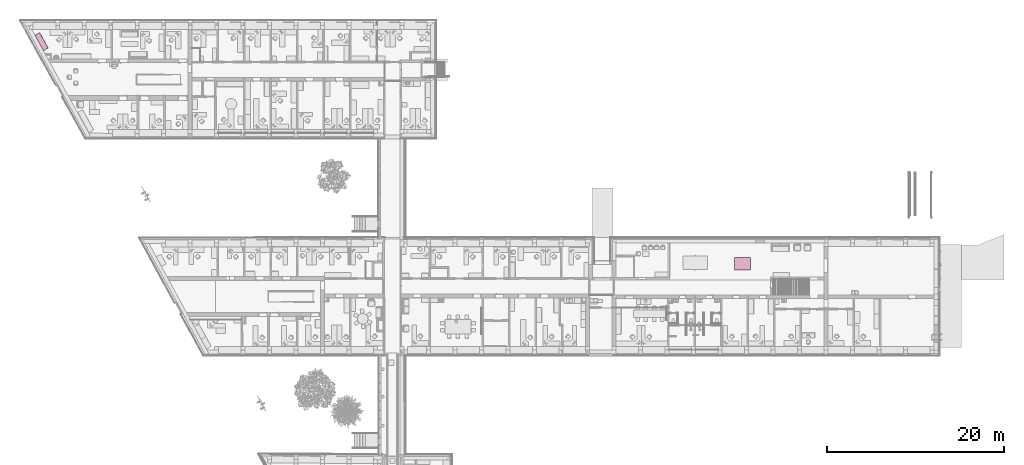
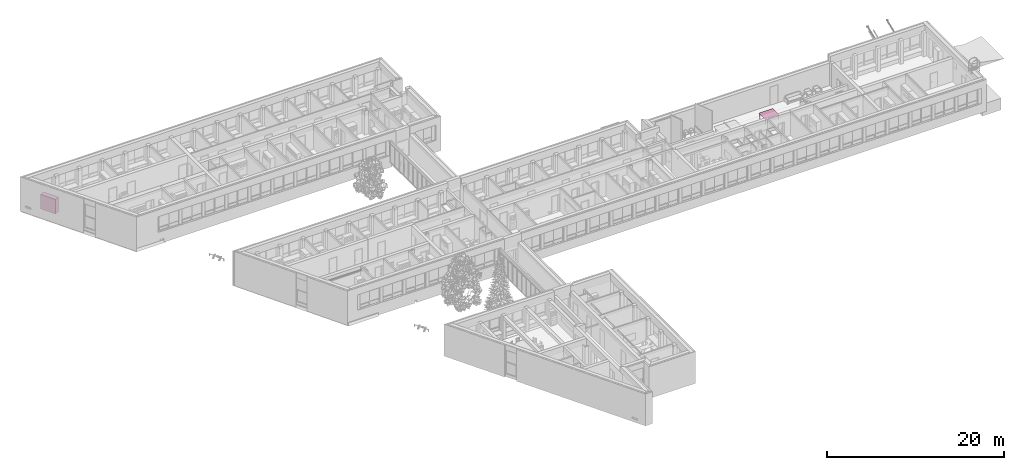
# One storey, part 175 of 194: 2 furnishings.
"""IFC2X3 building model written with IfcOpenShell, lengths in millimetres."""

import ifcopenshell
import ifcopenshell.guid

model = None  # the IFC model being written
_history = None  # IfcOwnerHistory: only IFC2X3 demands one
_inside = {}  # id of a spatial element -> (the spatial element, [elements in it])
_under = {}  # id of a project, library or spatial element -> (it, [spatial elements below it])
_declared = {}  # id of a project -> (the project, [libraries it declares])
_typed = {}  # id of a type object -> (the type object, [elements of that type])
_made_of = {}  # id of a material, layer set ... -> (it, [elements and type objects made of it])


def new_model(schema):
    """Start an empty IFC model of exactly this schema.

    Asked for "IFC4X3", IfcOpenShell would pick the latest addendum, in which some entities
    have other attributes; the version numbers below select the first issue.
    IFC2X3 requires an IfcOwnerHistory on every rooted entity: one is made here for all.
    """
    global model, _history
    if schema == "IFC4X3":
        model = ifcopenshell.file(schema_version=(4, 3, 0, 0))
    else:
        model = ifcopenshell.file(schema=schema)
    _inside.clear()
    _under.clear()
    _declared.clear()
    _typed.clear()
    _made_of.clear()
    _history = None
    if model.schema == "IFC2X3":
        org = make("IfcOrganization", Name="unknown")
        user = make(
            "IfcPersonAndOrganization",
            ThePerson=make("IfcPerson", FamilyName="unknown"),
            TheOrganization=org,
        )
        app = make(
            "IfcApplication",
            ApplicationDeveloper=org,
            Version="unknown",
            ApplicationFullName="unknown",
            ApplicationIdentifier="unknown",
        )
        _history = make(
            "IfcOwnerHistory",
            OwningUser=user,
            OwningApplication=app,
            ChangeAction="ADDED",
            CreationDate=0,
        )
    return model


def make(cls, **values):
    """One entity of the class cls with the attributes given. An attribute that is None is left unset."""
    return model.create_entity(
        cls, **{name: value for name, value in values.items() if value is not None}
    )


def entity(cls, *values):
    """Any entity or typed value of the class cls, its attributes in the order of the schema. None: left unset."""
    e = model.create_entity(cls)
    for i, value in enumerate(values):
        if value is not None:
            e[i] = value
    return e


def rooted(cls, **values):
    """An entity with a GlobalId (a new one), such as an element, a storey or a relation."""
    return make(cls, GlobalId=ifcopenshell.guid.new(), OwnerHistory=_history, **values)


def si_unit(unit_type, name, prefix=None):
    """IfcSIUnit, for example si_unit("LENGTHUNIT", "METRE", prefix="MILLI")."""
    return make("IfcSIUnit", UnitType=unit_type, Prefix=prefix, Name=name)


def converted_unit(unit_type, name, factor, base, dimensions=None, offset=None):
    """IfcConversionBasedUnit, such as the inch: factor (a typed value) times the base unit."""
    return make(
        "IfcConversionBasedUnit"
        if offset is None
        else "IfcConversionBasedUnitWithOffset",
        ConversionOffset=offset,
        Dimensions=None
        if dimensions is None
        else entity("IfcDimensionalExponents", *dimensions),
        UnitType=unit_type,
        Name=name,
        ConversionFactor=make(
            "IfcMeasureWithUnit", ValueComponent=factor, UnitComponent=base
        ),
    )


def derived_unit(unit_type, elements):
    """IfcDerivedUnit: a product of units, each with its exponent."""
    return make(
        "IfcDerivedUnit",
        Elements=[
            make("IfcDerivedUnitElement", Unit=unit, Exponent=power)
            for unit, power in elements
        ],
        UnitType=unit_type,
    )


def money_unit(currency):
    """IfcMonetaryUnit."""
    return make("IfcMonetaryUnit", Currency=currency)


def assignment(units):
    """IfcUnitAssignment: the units of a project."""
    return None if units is None else make("IfcUnitAssignment", Units=units)


def point(xyz):
    """IfcCartesianPoint."""
    return None if xyz is None else make("IfcCartesianPoint", Coordinates=xyz)


def direction(xyz):
    """IfcDirection."""
    return None if xyz is None else make("IfcDirection", DirectionRatios=xyz)


def frame(location, z_axis=None, x_axis=None):
    """IfcAxis2Placement3D, a coordinate frame: its origin and axes. An axis left out is left unset."""
    return make(
        "IfcAxis2Placement3D",
        Location=point(location),
        Axis=direction(z_axis),
        RefDirection=direction(x_axis),
    )


def origin_with_axes():
    """The frame at (0, 0, 0) with the z axis (0, 0, 1) and the x axis (1, 0, 0) written out."""
    return frame((0.0, 0.0, 0.0), z_axis=(0.0, 0.0, 1.0), x_axis=(1.0, 0.0, 0.0))


def place(relative_to, where):
    """IfcLocalPlacement: puts the frame where relative to a parent placement (None: the world)."""
    return make(
        "IfcLocalPlacement", PlacementRelTo=relative_to, RelativePlacement=where
    )


def context(
    kind, dimensions, precision=None, world=None, true_north=None, identifier=None
):
    """IfcGeometricRepresentationContext, for example the 3D "Model" context."""
    return make(
        "IfcGeometricRepresentationContext",
        ContextIdentifier=identifier,
        ContextType=kind,
        CoordinateSpaceDimension=dimensions,
        Precision=precision,
        WorldCoordinateSystem=world,
        TrueNorth=true_north,
    )


def subcontext(parent, identifier, kind, view, scale=None):
    """IfcGeometricRepresentationSubContext, for example "Body" below "Model"."""
    return make(
        "IfcGeometricRepresentationSubContext",
        ContextIdentifier=identifier,
        ContextType=kind,
        ParentContext=parent,
        TargetScale=scale,
        TargetView=view,
    )


def project(units=None, contexts=None):
    """IfcProject with its units and contexts."""
    return rooted(
        "IfcProject",
        Name="project",
        RepresentationContexts=contexts,
        UnitsInContext=assignment(units),
    )


def spatial(cls, under=None, at=None, **own):
    """A site, building, storey or space (cls), placed at a placement, below another one or the project."""
    s = rooted(cls, ObjectPlacement=at, **own)
    if under is not None:
        _under.setdefault(under.id(), (under, []))[1].append(s)
    return s


def faces_of(points, faces, orient=None, outer=None):
    """IfcFace entities. A face is a list of loops; a loop is a list of indices into points, from 0.

    orient and outer hold one flag for each loop. By default every Orientation is true, the
    first loop of a face is its IfcFaceOuterBound and the others are IfcFaceBound.
    """
    made = []
    for i, loops in enumerate(faces):
        bounds = []
        for j, loop in enumerate(loops):
            is_outer = j == 0 if outer is None else outer[i][j]
            bounds.append(
                make(
                    "IfcFaceOuterBound" if is_outer else "IfcFaceBound",
                    Bound=make("IfcPolyLoop", Polygon=[points[k] for k in loop]),
                    Orientation=True if orient is None else orient[i][j],
                )
            )
        made.append(make("IfcFace", Bounds=bounds))
    return made


def faceted_brep(points, faces, orient=None, outer=None, voids=None):
    """IfcFacetedBrep: a solid bounded by flat faces; with voids (closed shells), ...WithVoids."""
    shared = [point(p) for p in points]
    hull = make("IfcClosedShell", CfsFaces=faces_of(shared, faces, orient, outer))
    if voids is None:
        return make("IfcFacetedBrep", Outer=hull)
    return make(
        "IfcFacetedBrepWithVoids",
        Outer=hull,
        Voids=[
            make(cls, CfsFaces=faces_of(shared, fs, o, b)) for cls, fs, o, b in voids
        ],
    )


def shape(context_of_items, identifier, shape_type, items):
    """IfcShapeRepresentation: the items that make up one representation, for example the "Body"."""
    return make(
        "IfcShapeRepresentation",
        ContextOfItems=context_of_items,
        RepresentationIdentifier=identifier,
        RepresentationType=shape_type,
        Items=items,
    )


def made_of(thing, what):
    """Note that an element or type object is made of a material, layer set ...; save() writes the relation."""
    if what is not None:
        _made_of.setdefault(what.id(), (what, []))[1].append(thing)
    return thing


def type_object(cls, material=None, **own):
    """A type object (cls), such as IfcWallType, which elements share."""
    return made_of(rooted(cls, **own), material)


def element(
    cls,
    number,
    at=None,
    inside=None,
    cuts=None,
    type_object=None,
    material=None,
    context=None,
    identifier="Body",
    shape_type=None,
    held_by="IfcProductDefinitionShape",
    body=None,
    shapes=None,
    **own,
):
    """One element of the class cls, such as IfcWall. Its Tag is "e" and its number.

    at: its placement. inside: the storey or other place that contains it. cuts: it is an
    opening in that element (IfcRelVoidsElement). A single representation is given by context,
    identifier, shape_type and body (its items); several are given by shapes. held_by: the class
    of the entity that holds the representations. save() writes the other relations.
    """
    e = rooted(cls, Tag="e%d" % number, ObjectPlacement=at, **own)
    if body is not None:
        shapes = [shape(context, identifier, shape_type, body)]
    if shapes is not None:
        e.Representation = make(held_by, Representations=shapes)
    if inside is not None:
        _inside.setdefault(inside.id(), (inside, []))[1].append(e)
    if cuts is not None:
        rooted(
            "IfcRelVoidsElement", RelatingBuildingElement=cuts, RelatedOpeningElement=e
        )
    if type_object is not None:
        _typed.setdefault(type_object.id(), (type_object, []))[1].append(e)
    return made_of(e, material)


def aggregate(whole, parts):
    """IfcRelAggregates: a whole, such as a stair, and the parts it consists of."""
    return rooted("IfcRelAggregates", RelatingObject=whole, RelatedObjects=parts)


def save(model, path):
    """Write the relations noted so far, then the file.

    IfcRelAggregates (storeys below a building ...), IfcRelContainedInSpatialStructure (elements
    in a storey), IfcRelDefinesByType, IfcRelAssociatesMaterial and IfcRelDeclares: one each for
    every whole, place, type object, material and project.
    """
    for whole, parts in _under.values():
        aggregate(whole, parts)
    for where, things in _inside.values():
        rooted(
            "IfcRelContainedInSpatialStructure",
            RelatedElements=things,
            RelatingStructure=where,
        )
    for kind, things in _typed.values():
        rooted("IfcRelDefinesByType", RelatedObjects=things, RelatingType=kind)
    for what, things in _made_of.values():
        rooted("IfcRelAssociatesMaterial", RelatedObjects=things, RelatingMaterial=what)
    for by, libraries in _declared.values():
        rooted("IfcRelDeclares", RelatingContext=by, RelatedDefinitions=libraries)
    model.write(path)


model = new_model("IFC2X3")

# Units and contexts
model_context = context("Model", 3, precision=1e-05, world=origin_with_axes(), true_north=direction((0.0, 1.0)))
body_context = subcontext(model_context, "Body", "Model", "MODEL_VIEW")
ifc_project = project(units=[si_unit("LENGTHUNIT", "METRE", prefix="MILLI"), si_unit("AREAUNIT", "SQUARE_METRE"), si_unit("VOLUMEUNIT", "CUBIC_METRE"), converted_unit("PLANEANGLEUNIT", "DEGREE", entity("IfcPlaneAngleMeasure", 0.0174532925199), si_unit("PLANEANGLEUNIT", "RADIAN"), dimensions=[0, 0, 0, 0, 0, 0, 0]), si_unit("SOLIDANGLEUNIT", "STERADIAN"), money_unit("EUR"), converted_unit("TIMEUNIT", "Year", entity("IfcTimeMeasure", 31556926.0), si_unit("TIMEUNIT", "SECOND"), dimensions=[0, 0, 1, 0, 0, 0, 0]), si_unit("MASSUNIT", "GRAM", prefix="KILO"), si_unit("THERMODYNAMICTEMPERATUREUNIT", "DEGREE_CELSIUS"), si_unit("LUMINOUSINTENSITYUNIT", "LUMEN"), si_unit("ENERGYUNIT", "JOULE", prefix="MEGA"), derived_unit("THERMALCONDUCTANCEUNIT", [(si_unit("POWERUNIT", "WATT"), 1), (si_unit("LENGTHUNIT", "METRE"), -1), (si_unit("THERMODYNAMICTEMPERATUREUNIT", "KELVIN"), -1)]), derived_unit("SPECIFICHEATCAPACITYUNIT", [(si_unit("ENERGYUNIT", "JOULE"), 1), (si_unit("MASSUNIT", "GRAM", prefix="KILO"), -1), (si_unit("THERMODYNAMICTEMPERATUREUNIT", "KELVIN"), -1)]), derived_unit("MASSDENSITYUNIT", [(si_unit("MASSUNIT", "GRAM", prefix="KILO"), 1), (si_unit("VOLUMEUNIT", "CUBIC_METRE"), -1)])], contexts=[model_context])

# Site, building, storey
site_placement = place(None, origin_with_axes())
site = spatial("IfcSite", under=ifc_project, at=site_placement, Name="Site", CompositionType="ELEMENT")
building_placement = place(site_placement, origin_with_axes())
building = spatial("IfcBuilding", under=site, at=building_placement, Name="Building", CompositionType="ELEMENT")
storey_placement = place(building_placement, frame((0.0, 0.0, 3000.0), z_axis=(0.0, 0.0, 1.0), x_axis=(1.0, 0.0, 0.0)))
storey = spatial("IfcBuildingStorey", under=building, at=storey_placement, Name="2 KORRUS", CompositionType="ELEMENT", Elevation=3000.0)

# Furnishings
furnishing_element_type_1 = type_object("IfcFurnishingElementType", Name="Model Element 136")
furnishing_1_placement = place(storey_placement, frame((77560.0432985, 45241.6882538, 0.0), z_axis=(0.0, 0.0, 1.0), x_axis=(0.0, -1.0, 0.0)))
element("IfcFurnishingElement", 1, at=furnishing_1_placement, inside=storey, type_object=furnishing_element_type_1, Name="FU - 007", context=body_context, shape_type="Brep", body=[
    faceted_brep([(0.0, 0.0, 725.0), (1400.0, 0.0, 725.0), (1400.0, 0.0, 750.0), (0.0, 0.0, 750.0), (0.0, 1839.94990248, 725.0), (1400.0, 1839.94990248, 725.0), (1400.0, 1839.94990248, 750.0), (0.0, 1839.94990248, 750.0)], [[[0, 1, 2, 3]], [[0, 4, 5, 1]], [[1, 5, 6, 2]], [[3, 2, 6, 7]], [[4, 0, 3, 7]], [[5, 4, 7, 6]]]),
    faceted_brep([(77.6776695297, 77.6776695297, 10.0), (85.0, 60.0, 10.0), (77.6776695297, 42.3223304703, 10.0), (60.0, 35.0, 10.0), (42.3223304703, 42.3223304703, 10.0), (35.0, 60.0, 10.0), (42.3223304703, 77.6776695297, 10.0), (60.0, 85.0, 10.0), (77.6776695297, 77.6776695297, 725.0), (85.0, 60.0, 725.0), (77.6776695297, 42.3223304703, 725.0), (60.0, 35.0, 725.0), (42.3223304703, 42.3223304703, 725.0), (35.0, 60.0, 725.0), (42.3223304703, 77.6776695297, 725.0), (60.0, 85.0, 725.0)], [[[0, 1, 2, 3, 4, 5, 6, 7]], [[1, 0, 8, 9]], [[2, 1, 9, 10]], [[3, 2, 10, 11]], [[4, 3, 11, 12]], [[5, 4, 12, 13]], [[6, 5, 13, 14]], [[7, 6, 14, 15]], [[0, 7, 15, 8]], [[8, 15, 14, 13, 12, 11, 10, 9]]]),
    faceted_brep([(81.2132034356, 81.2132034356, 0.0), (90.0, 60.0, 0.0), (81.2132034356, 38.7867965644, 0.0), (60.0, 30.0, 0.0), (38.7867965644, 38.7867965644, 0.0), (30.0, 60.0, 0.0), (38.7867965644, 81.2132034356, 0.0), (60.0, 90.0, 0.0), (81.2132034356, 81.2132034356, 10.0), (90.0, 60.0, 10.0), (81.2132034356, 38.7867965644, 10.0), (60.0, 30.0, 10.0), (38.7867965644, 38.7867965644, 10.0), (30.0, 60.0, 10.0), (38.7867965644, 81.2132034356, 10.0), (60.0, 90.0, 10.0)], [[[0, 1, 2, 3, 4, 5, 6, 7]], [[1, 0, 8, 9]], [[2, 1, 9, 10]], [[3, 2, 10, 11]], [[4, 3, 11, 12]], [[5, 4, 12, 13]], [[6, 5, 13, 14]], [[7, 6, 14, 15]], [[0, 7, 15, 8]], [[8, 15, 14, 13, 12, 11, 10, 9]]]),
    faceted_brep([(77.6776695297, 1797.62757201, 10.0), (85.0, 1779.94990248, 10.0), (77.6776695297, 1762.27223295, 10.0), (60.0, 1754.94990248, 10.0), (42.3223304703, 1762.27223295, 10.0), (35.0, 1779.94990248, 10.0), (42.3223304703, 1797.62757201, 10.0), (60.0, 1804.94990248, 10.0), (77.6776695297, 1797.62757201, 725.0), (85.0, 1779.94990248, 725.0), (77.6776695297, 1762.27223295, 725.0), (60.0, 1754.94990248, 725.0), (42.3223304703, 1762.27223295, 725.0), (35.0, 1779.94990248, 725.0), (42.3223304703, 1797.62757201, 725.0), (60.0, 1804.94990248, 725.0)], [[[0, 1, 2, 3, 4, 5, 6, 7]], [[1, 0, 8, 9]], [[2, 1, 9, 10]], [[3, 2, 10, 11]], [[4, 3, 11, 12]], [[5, 4, 12, 13]], [[6, 5, 13, 14]], [[7, 6, 14, 15]], [[0, 7, 15, 8]], [[8, 15, 14, 13, 12, 11, 10, 9]]]),
    faceted_brep([(81.2132034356, 1801.16310592, 0.0), (90.0, 1779.94990248, 0.0), (81.2132034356, 1758.73669905, 0.0), (60.0, 1749.94990248, 0.0), (38.7867965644, 1758.73669905, 0.0), (30.0, 1779.94990248, 0.0), (38.7867965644, 1801.16310592, 0.0), (60.0, 1809.94990248, 0.0), (81.2132034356, 1801.16310592, 10.0), (90.0, 1779.94990248, 10.0), (81.2132034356, 1758.73669905, 10.0), (60.0, 1749.94990248, 10.0), (38.7867965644, 1758.73669905, 10.0), (30.0, 1779.94990248, 10.0), (38.7867965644, 1801.16310592, 10.0), (60.0, 1809.94990248, 10.0)], [[[0, 1, 2, 3, 4, 5, 6, 7]], [[1, 0, 8, 9]], [[2, 1, 9, 10]], [[3, 2, 10, 11]], [[4, 3, 11, 12]], [[5, 4, 12, 13]], [[6, 5, 13, 14]], [[7, 6, 14, 15]], [[0, 7, 15, 8]], [[8, 15, 14, 13, 12, 11, 10, 9]]]),
    faceted_brep([(1357.67766953, 77.6776695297, 10.0), (1365.0, 60.0, 10.0), (1357.67766953, 42.3223304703, 10.0), (1340.0, 35.0, 10.0), (1322.32233047, 42.3223304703, 10.0), (1315.0, 60.0, 10.0), (1322.32233047, 77.6776695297, 10.0), (1340.0, 85.0, 10.0), (1357.67766953, 77.6776695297, 725.0), (1365.0, 60.0, 725.0), (1357.67766953, 42.3223304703, 725.0), (1340.0, 35.0, 725.0), (1322.32233047, 42.3223304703, 725.0), (1315.0, 60.0, 725.0), (1322.32233047, 77.6776695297, 725.0), (1340.0, 85.0, 725.0)], [[[0, 1, 2, 3, 4, 5, 6, 7]], [[1, 0, 8, 9]], [[2, 1, 9, 10]], [[3, 2, 10, 11]], [[4, 3, 11, 12]], [[5, 4, 12, 13]], [[6, 5, 13, 14]], [[7, 6, 14, 15]], [[0, 7, 15, 8]], [[8, 15, 14, 13, 12, 11, 10, 9]]]),
    faceted_brep([(1361.21320344, 81.2132034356, 0.0), (1370.0, 60.0, 0.0), (1361.21320344, 38.7867965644, 0.0), (1340.0, 30.0, 0.0), (1318.78679656, 38.7867965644, 0.0), (1310.0, 60.0, 0.0), (1318.78679656, 81.2132034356, 0.0), (1340.0, 90.0, 0.0), (1361.21320344, 81.2132034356, 10.0), (1370.0, 60.0, 10.0), (1361.21320344, 38.7867965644, 10.0), (1340.0, 30.0, 10.0), (1318.78679656, 38.7867965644, 10.0), (1310.0, 60.0, 10.0), (1318.78679656, 81.2132034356, 10.0), (1340.0, 90.0, 10.0)], [[[0, 1, 2, 3, 4, 5, 6, 7]], [[1, 0, 8, 9]], [[2, 1, 9, 10]], [[3, 2, 10, 11]], [[4, 3, 11, 12]], [[5, 4, 12, 13]], [[6, 5, 13, 14]], [[7, 6, 14, 15]], [[0, 7, 15, 8]], [[8, 15, 14, 13, 12, 11, 10, 9]]]),
    faceted_brep([(1357.67766953, 1797.62757201, 10.0), (1365.0, 1779.94990248, 10.0), (1357.67766953, 1762.27223295, 10.0), (1340.0, 1754.94990248, 10.0), (1322.32233047, 1762.27223295, 10.0), (1315.0, 1779.94990248, 10.0), (1322.32233047, 1797.62757201, 10.0), (1340.0, 1804.94990248, 10.0), (1357.67766953, 1797.62757201, 725.0), (1365.0, 1779.94990248, 725.0), (1357.67766953, 1762.27223295, 725.0), (1340.0, 1754.94990248, 725.0), (1322.32233047, 1762.27223295, 725.0), (1315.0, 1779.94990248, 725.0), (1322.32233047, 1797.62757201, 725.0), (1340.0, 1804.94990248, 725.0)], [[[0, 1, 2, 3, 4, 5, 6, 7]], [[1, 0, 8, 9]], [[2, 1, 9, 10]], [[3, 2, 10, 11]], [[4, 3, 11, 12]], [[5, 4, 12, 13]], [[6, 5, 13, 14]], [[7, 6, 14, 15]], [[0, 7, 15, 8]], [[8, 15, 14, 13, 12, 11, 10, 9]]]),
    faceted_brep([(1361.21320344, 1801.16310592, 0.0), (1370.0, 1779.94990248, 0.0), (1361.21320344, 1758.73669905, 0.0), (1340.0, 1749.94990248, 0.0), (1318.78679656, 1758.73669905, 0.0), (1310.0, 1779.94990248, 0.0), (1318.78679656, 1801.16310592, 0.0), (1340.0, 1809.94990248, 0.0), (1361.21320344, 1801.16310592, 10.0), (1370.0, 1779.94990248, 10.0), (1361.21320344, 1758.73669905, 10.0), (1340.0, 1749.94990248, 10.0), (1318.78679656, 1758.73669905, 10.0), (1310.0, 1779.94990248, 10.0), (1318.78679656, 1801.16310592, 10.0), (1340.0, 1809.94990248, 10.0)], [[[0, 1, 2, 3, 4, 5, 6, 7]], [[1, 0, 8, 9]], [[2, 1, 9, 10]], [[3, 2, 10, 11]], [[4, 3, 11, 12]], [[5, 4, 12, 13]], [[6, 5, 13, 14]], [[7, 6, 14, 15]], [[0, 7, 15, 8]], [[8, 15, 14, 13, 12, 11, 10, 9]]]),
])
furnishing_element_type_2 = type_object("IfcFurnishingElementType", Name="Model Element 97")
furnishing_2_placement = place(storey_placement, frame((-108.204013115, 68960.312583, 0.0), z_axis=(0.0, 0.0, 1.0), x_axis=(-0.477572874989, 0.878592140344, 0.0)))
element("IfcFurnishingElement", 2, at=furnishing_2_placement, inside=storey, type_object=furnishing_element_type_2, Name="FU - 001", context=body_context, shape_type="Brep", body=[
    faceted_brep([(2000.0, 19.0, 0.0), (0.0, 19.0, 0.0), (0.0, 622.313284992, 0.0), (2000.0, 622.313284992, 0.0), (2000.0, 19.0, 100.0), (0.0, 19.0, 100.0), (0.0, 622.313284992, 100.0), (2000.0, 622.313284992, 100.0)], [[[0, 1, 2, 3]], [[1, 0, 4, 5]], [[2, 1, 5, 6]], [[3, 2, 6, 7]], [[0, 3, 7, 4]], [[5, 4, 7, 6]]]),
    faceted_brep([(19.0, 622.313284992, 119.0), (19.0, 603.313284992, 119.0), (19.0, 603.313284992, 1981.0), (19.0, 622.313284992, 1981.0), (1981.0, 622.313284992, 119.0), (1981.0, 603.313284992, 119.0), (1981.0, 603.313284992, 1981.0), (1981.0, 622.313284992, 1981.0)], [[[0, 1, 2, 3]], [[0, 4, 5, 1]], [[1, 5, 6, 2]], [[3, 2, 6, 7]], [[4, 0, 3, 7]], [[5, 4, 7, 6]]]),
    faceted_brep([(2000.0, 19.0, 100.0), (1981.0, 19.0, 100.0), (1981.0, 622.313284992, 100.0), (2000.0, 622.313284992, 100.0), (2000.0, 19.0, 2000.0), (1981.0, 19.0, 2000.0), (1981.0, 622.313284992, 2000.0), (2000.0, 622.313284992, 2000.0)], [[[0, 1, 2, 3]], [[1, 0, 4, 5]], [[2, 1, 5, 6]], [[3, 2, 6, 7]], [[0, 3, 7, 4]], [[5, 4, 7, 6]]]),
    faceted_brep([(19.0, 19.0, 100.0), (0.0, 19.0, 100.0), (0.0, 622.313284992, 100.0), (19.0, 622.313284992, 100.0), (19.0, 19.0, 2000.0), (0.0, 19.0, 2000.0), (0.0, 622.313284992, 2000.0), (19.0, 622.313284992, 2000.0)], [[[0, 1, 2, 3]], [[1, 0, 4, 5]], [[2, 1, 5, 6]], [[3, 2, 6, 7]], [[0, 3, 7, 4]], [[5, 4, 7, 6]]]),
    faceted_brep([(1981.0, 19.0, 100.0), (19.0, 19.0, 100.0), (19.0, 622.313284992, 100.0), (1981.0, 622.313284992, 100.0), (1981.0, 19.0, 119.0), (19.0, 19.0, 119.0), (19.0, 622.313284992, 119.0), (1981.0, 622.313284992, 119.0)], [[[0, 1, 2, 3]], [[1, 0, 4, 5]], [[2, 1, 5, 6]], [[3, 2, 6, 7]], [[0, 3, 7, 4]], [[5, 4, 7, 6]]]),
    faceted_brep([(1981.0, 19.0, 1981.0), (19.0, 19.0, 1981.0), (19.0, 622.313284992, 1981.0), (1981.0, 622.313284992, 1981.0), (1981.0, 19.0, 2000.0), (19.0, 19.0, 2000.0), (19.0, 622.313284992, 2000.0), (1981.0, 622.313284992, 2000.0)], [[[0, 1, 2, 3]], [[1, 0, 4, 5]], [[2, 1, 5, 6]], [[3, 2, 6, 7]], [[0, 3, 7, 4]], [[5, 4, 7, 6]]]),
    faceted_brep([(5.0, 19.0, 105.0), (1995.0, 19.0, 105.0), (1995.0, 0.0, 105.0), (5.0, 0.0, 105.0), (5.0, 19.0, 395.0), (1995.0, 19.0, 395.0), (1995.0, 0.0, 395.0), (5.0, 0.0, 395.0)], [[[0, 1, 2, 3]], [[0, 4, 5, 1]], [[1, 5, 6, 2]], [[3, 2, 6, 7]], [[4, 0, 3, 7]], [[5, 4, 7, 6]]]),
    faceted_brep([(1010.39230485, 0.0, 244.0), (1006.0, 0.0, 239.607695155), (1000.0, 0.0, 238.0), (994.0, 0.0, 239.607695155), (989.607695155, 0.0, 244.0), (988.0, 0.0, 250.0), (989.607695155, 0.0, 256.0), (994.0, 0.0, 260.392304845), (1000.0, 0.0, 262.0), (1006.0, 0.0, 260.392304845), (1010.39230485, 0.0, 256.0), (1012.0, 0.0, 250.0), (1010.39230485, -25.0, 244.0), (1006.0, -25.0, 239.607695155), (1000.0, -25.0, 238.0), (994.0, -25.0, 239.607695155), (989.607695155, -25.0, 244.0), (988.0, -25.0, 250.0), (989.607695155, -25.0, 256.0), (994.0, -25.0, 260.392304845), (1000.0, -25.0, 262.0), (1006.0, -25.0, 260.392304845), (1010.39230485, -25.0, 256.0), (1012.0, -25.0, 250.0)], [[[0, 1, 2, 3, 4, 5, 6, 7, 8, 9, 10, 11]], [[1, 0, 12, 13]], [[2, 1, 13, 14]], [[3, 2, 14, 15]], [[4, 3, 15, 16]], [[5, 4, 16, 17]], [[6, 5, 17, 18]], [[7, 6, 18, 19]], [[8, 7, 19, 20]], [[9, 8, 20, 21]], [[10, 9, 21, 22]], [[11, 10, 22, 23]], [[0, 11, 23, 12]], [[12, 23, 22, 21, 20, 19, 18, 17, 16, 15, 14, 13]]]),
    faceted_brep([(5.0, 19.0, 405.0), (1995.0, 19.0, 405.0), (1995.0, 0.0, 405.0), (5.0, 0.0, 405.0), (5.0, 19.0, 695.0), (1995.0, 19.0, 695.0), (1995.0, 0.0, 695.0), (5.0, 0.0, 695.0)], [[[0, 1, 2, 3]], [[0, 4, 5, 1]], [[1, 5, 6, 2]], [[3, 2, 6, 7]], [[4, 0, 3, 7]], [[5, 4, 7, 6]]]),
    faceted_brep([(1010.39230485, 0.0, 544.0), (1006.0, 0.0, 539.607695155), (1000.0, 0.0, 538.0), (994.0, 0.0, 539.607695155), (989.607695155, 0.0, 544.0), (988.0, 0.0, 550.0), (989.607695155, 0.0, 556.0), (994.0, 0.0, 560.392304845), (1000.0, 0.0, 562.0), (1006.0, 0.0, 560.392304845), (1010.39230485, 0.0, 556.0), (1012.0, 0.0, 550.0), (1010.39230485, -25.0, 544.0), (1006.0, -25.0, 539.607695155), (1000.0, -25.0, 538.0), (994.0, -25.0, 539.607695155), (989.607695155, -25.0, 544.0), (988.0, -25.0, 550.0), (989.607695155, -25.0, 556.0), (994.0, -25.0, 560.392304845), (1000.0, -25.0, 562.0), (1006.0, -25.0, 560.392304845), (1010.39230485, -25.0, 556.0), (1012.0, -25.0, 550.0)], [[[0, 1, 2, 3, 4, 5, 6, 7, 8, 9, 10, 11]], [[1, 0, 12, 13]], [[2, 1, 13, 14]], [[3, 2, 14, 15]], [[4, 3, 15, 16]], [[5, 4, 16, 17]], [[6, 5, 17, 18]], [[7, 6, 18, 19]], [[8, 7, 19, 20]], [[9, 8, 20, 21]], [[10, 9, 21, 22]], [[11, 10, 22, 23]], [[0, 11, 23, 12]], [[12, 23, 22, 21, 20, 19, 18, 17, 16, 15, 14, 13]]]),
    faceted_brep([(5.0, 19.0, 705.0), (1995.0, 19.0, 705.0), (1995.0, 0.0, 705.0), (5.0, 0.0, 705.0), (5.0, 19.0, 995.0), (1995.0, 19.0, 995.0), (1995.0, 0.0, 995.0), (5.0, 0.0, 995.0)], [[[0, 1, 2, 3]], [[0, 4, 5, 1]], [[1, 5, 6, 2]], [[3, 2, 6, 7]], [[4, 0, 3, 7]], [[5, 4, 7, 6]]]),
    faceted_brep([(1010.39230485, 0.0, 844.0), (1006.0, 0.0, 839.607695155), (1000.0, 0.0, 838.0), (994.0, 0.0, 839.607695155), (989.607695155, 0.0, 844.0), (988.0, 0.0, 850.0), (989.607695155, 0.0, 856.0), (994.0, 0.0, 860.392304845), (1000.0, 0.0, 862.0), (1006.0, 0.0, 860.392304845), (1010.39230485, 0.0, 856.0), (1012.0, 0.0, 850.0), (1010.39230485, -25.0, 844.0), (1006.0, -25.0, 839.607695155), (1000.0, -25.0, 838.0), (994.0, -25.0, 839.607695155), (989.607695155, -25.0, 844.0), (988.0, -25.0, 850.0), (989.607695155, -25.0, 856.0), (994.0, -25.0, 860.392304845), (1000.0, -25.0, 862.0), (1006.0, -25.0, 860.392304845), (1010.39230485, -25.0, 856.0), (1012.0, -25.0, 850.0)], [[[0, 1, 2, 3, 4, 5, 6, 7, 8, 9, 10, 11]], [[1, 0, 12, 13]], [[2, 1, 13, 14]], [[3, 2, 14, 15]], [[4, 3, 15, 16]], [[5, 4, 16, 17]], [[6, 5, 17, 18]], [[7, 6, 18, 19]], [[8, 7, 19, 20]], [[9, 8, 20, 21]], [[10, 9, 21, 22]], [[11, 10, 22, 23]], [[0, 11, 23, 12]], [[12, 23, 22, 21, 20, 19, 18, 17, 16, 15, 14, 13]]]),
    faceted_brep([(5.0, 19.0, 1005.0), (1995.0, 19.0, 1005.0), (1995.0, 0.0, 1005.0), (5.0, 0.0, 1005.0), (5.0, 19.0, 1295.0), (1995.0, 19.0, 1295.0), (1995.0, 0.0, 1295.0), (5.0, 0.0, 1295.0)], [[[0, 1, 2, 3]], [[0, 4, 5, 1]], [[1, 5, 6, 2]], [[3, 2, 6, 7]], [[4, 0, 3, 7]], [[5, 4, 7, 6]]]),
    faceted_brep([(1010.39230485, 0.0, 1144.0), (1006.0, 0.0, 1139.60769515), (1000.0, 0.0, 1138.0), (994.0, 0.0, 1139.60769515), (989.607695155, 0.0, 1144.0), (988.0, 0.0, 1150.0), (989.607695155, 0.0, 1156.0), (994.0, 0.0, 1160.39230485), (1000.0, 0.0, 1162.0), (1006.0, 0.0, 1160.39230485), (1010.39230485, 0.0, 1156.0), (1012.0, 0.0, 1150.0), (1010.39230485, -25.0, 1144.0), (1006.0, -25.0, 1139.60769515), (1000.0, -25.0, 1138.0), (994.0, -25.0, 1139.60769515), (989.607695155, -25.0, 1144.0), (988.0, -25.0, 1150.0), (989.607695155, -25.0, 1156.0), (994.0, -25.0, 1160.39230485), (1000.0, -25.0, 1162.0), (1006.0, -25.0, 1160.39230485), (1010.39230485, -25.0, 1156.0), (1012.0, -25.0, 1150.0)], [[[0, 1, 2, 3, 4, 5, 6, 7, 8, 9, 10, 11]], [[1, 0, 12, 13]], [[2, 1, 13, 14]], [[3, 2, 14, 15]], [[4, 3, 15, 16]], [[5, 4, 16, 17]], [[6, 5, 17, 18]], [[7, 6, 18, 19]], [[8, 7, 19, 20]], [[9, 8, 20, 21]], [[10, 9, 21, 22]], [[11, 10, 22, 23]], [[0, 11, 23, 12]], [[12, 23, 22, 21, 20, 19, 18, 17, 16, 15, 14, 13]]]),
    faceted_brep([(19.0, 19.0, 390.5), (1981.0, 19.0, 390.5), (1981.0, 19.0, 409.5), (19.0, 19.0, 409.5), (19.0, 603.313284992, 390.5), (1981.0, 603.313284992, 390.5), (1981.0, 603.313284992, 409.5), (19.0, 603.313284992, 409.5)], [[[0, 1, 2, 3]], [[0, 4, 5, 1]], [[1, 5, 6, 2]], [[3, 2, 6, 7]], [[4, 0, 3, 7]], [[5, 4, 7, 6]]]),
    faceted_brep([(19.0, 19.0, 690.5), (1981.0, 19.0, 690.5), (1981.0, 19.0, 709.5), (19.0, 19.0, 709.5), (19.0, 603.313284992, 690.5), (1981.0, 603.313284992, 690.5), (1981.0, 603.313284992, 709.5), (19.0, 603.313284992, 709.5)], [[[0, 1, 2, 3]], [[0, 4, 5, 1]], [[1, 5, 6, 2]], [[3, 2, 6, 7]], [[4, 0, 3, 7]], [[5, 4, 7, 6]]]),
    faceted_brep([(19.0, 19.0, 990.5), (1981.0, 19.0, 990.5), (1981.0, 19.0, 1009.5), (19.0, 19.0, 1009.5), (19.0, 603.313284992, 990.5), (1981.0, 603.313284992, 990.5), (1981.0, 603.313284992, 1009.5), (19.0, 603.313284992, 1009.5)], [[[0, 1, 2, 3]], [[0, 4, 5, 1]], [[1, 5, 6, 2]], [[3, 2, 6, 7]], [[4, 0, 3, 7]], [[5, 4, 7, 6]]]),
    faceted_brep([(19.0, 19.0, 1290.5), (1981.0, 19.0, 1290.5), (1981.0, 19.0, 1309.5), (19.0, 19.0, 1309.5), (19.0, 603.313284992, 1290.5), (1981.0, 603.313284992, 1290.5), (1981.0, 603.313284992, 1309.5), (19.0, 603.313284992, 1309.5)], [[[0, 1, 2, 3]], [[0, 4, 5, 1]], [[1, 5, 6, 2]], [[3, 2, 6, 7]], [[4, 0, 3, 7]], [[5, 4, 7, 6]]]),
    faceted_brep([(1981.0, 19.0, 1463.125), (19.0, 19.0, 1463.125), (19.0, 603.313284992, 1463.125), (1981.0, 603.313284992, 1463.125), (1981.0, 19.0, 1482.125), (19.0, 19.0, 1482.125), (19.0, 603.313284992, 1482.125), (1981.0, 603.313284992, 1482.125)], [[[0, 1, 2, 3]], [[1, 0, 4, 5]], [[2, 1, 5, 6]], [[3, 2, 6, 7]], [[0, 3, 7, 4]], [[5, 4, 7, 6]]]),
    faceted_brep([(1981.0, 19.0, 1635.75), (19.0, 19.0, 1635.75), (19.0, 603.313284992, 1635.75), (1981.0, 603.313284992, 1635.75), (1981.0, 19.0, 1654.75), (19.0, 19.0, 1654.75), (19.0, 603.313284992, 1654.75), (1981.0, 603.313284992, 1654.75)], [[[0, 1, 2, 3]], [[1, 0, 4, 5]], [[2, 1, 5, 6]], [[3, 2, 6, 7]], [[0, 3, 7, 4]], [[5, 4, 7, 6]]]),
    faceted_brep([(1981.0, 19.0, 1808.375), (19.0, 19.0, 1808.375), (19.0, 603.313284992, 1808.375), (1981.0, 603.313284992, 1808.375), (1981.0, 19.0, 1827.375), (19.0, 19.0, 1827.375), (19.0, 603.313284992, 1827.375), (1981.0, 603.313284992, 1827.375)], [[[0, 1, 2, 3]], [[1, 0, 4, 5]], [[2, 1, 5, 6]], [[3, 2, 6, 7]], [[0, 3, 7, 4]], [[5, 4, 7, 6]]]),
])

save(model, "model.ifc")
